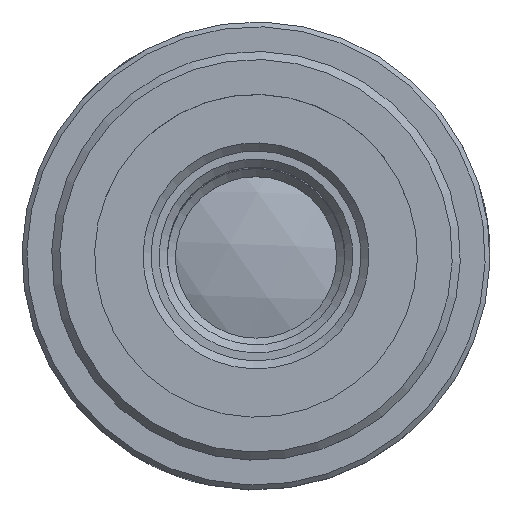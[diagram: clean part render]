
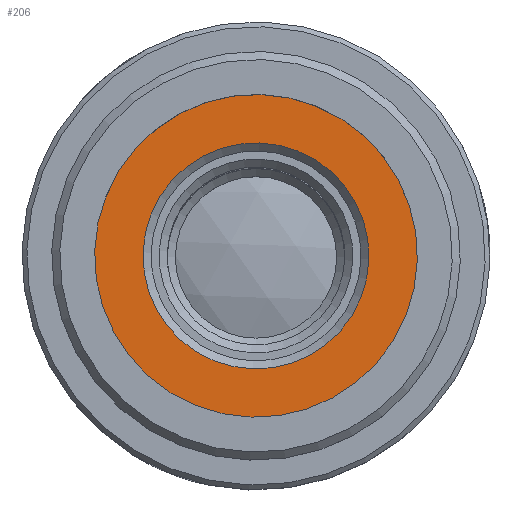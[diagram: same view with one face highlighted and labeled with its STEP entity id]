
A CAD part, top view. The second image highlights one B-rep face of the part: STEP entity #206.
In plain terms, the highlighted planar face has unit normal (0, 0, 1).
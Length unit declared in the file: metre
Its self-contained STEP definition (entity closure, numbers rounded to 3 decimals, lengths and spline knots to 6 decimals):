
#206=ADVANCED_FACE('1:176697',(#521,#522),#523,.F.);
#521=FACE_BOUND('',#1070,.T.);
#522=FACE_OUTER_BOUND('',#1071,.T.);
#523=PLANE('',#1072);
#1070=EDGE_LOOP('',(#1625));
#1071=EDGE_LOOP('',(#1626));
#1072=AXIS2_PLACEMENT_3D('',#1627,#1628,#1629);
#1625=ORIENTED_EDGE('',*,*,#2516,.T.);
#1626=ORIENTED_EDGE('',*,*,#2518,.F.);
#1627=CARTESIAN_POINT('',(-0.001792,0.008423,0.0559));
#1628=DIRECTION('',(0.,0.0,-1.0));
#1629=DIRECTION('',(-1.0,0.0,0.));
#2516=EDGE_CURVE('1:177186',#2901,#2901,#2902,.T.);
#2518=EDGE_CURVE('1:177162',#2904,#2904,#2905,.T.);
#2901=VERTEX_POINT('',#3661);
#2902=CIRCLE('',#3662,0.007);
#2904=VERTEX_POINT('',#3664);
#2905=CIRCLE('',#3665,0.01);
#3661=CARTESIAN_POINT('',(-0.012002,0.001733,0.0559));
#3662=AXIS2_PLACEMENT_3D('',#4323,#4324,#4325);
#3664=CARTESIAN_POINT('',(-0.014788,0.002845,0.0559));
#3665=AXIS2_PLACEMENT_3D('',#4326,#4327,#4328);
#4323=CARTESIAN_POINT('',(-0.005501,-0.000864,0.0559));
#4324=DIRECTION('',(0.,0.0,-1.0));
#4325=DIRECTION('',(-0.929,0.371,0.));
#4326=CARTESIAN_POINT('',(-0.005501,-0.000864,0.0559));
#4327=DIRECTION('',(0.,0.,-1.0));
#4328=DIRECTION('',(-0.929,0.371,0.));
